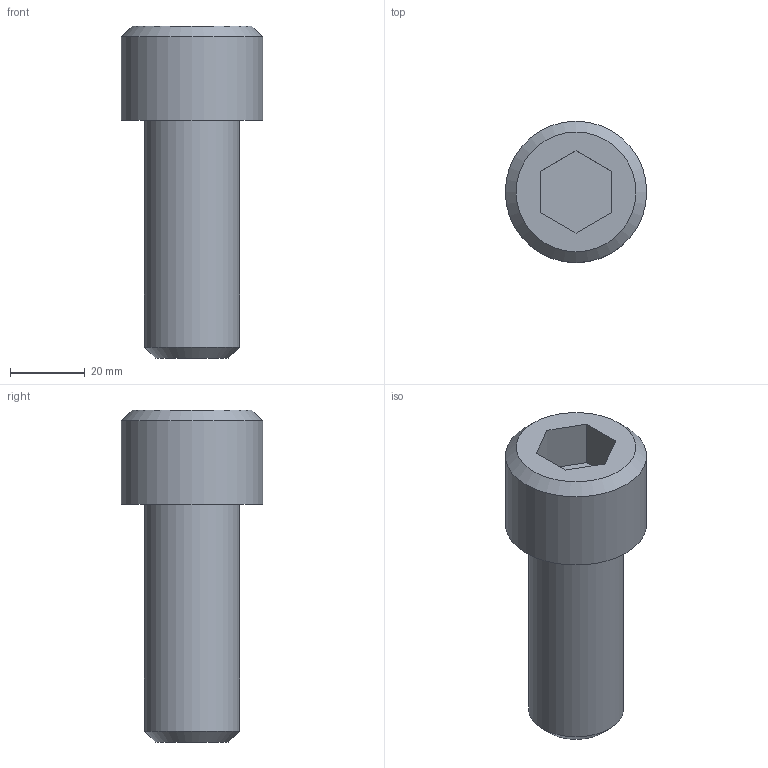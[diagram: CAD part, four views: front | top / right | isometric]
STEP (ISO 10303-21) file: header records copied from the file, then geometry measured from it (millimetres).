
FILE_DESCRIPTION((''),'2;1');
FILE_NAME('C:\Users\Stan\Desktop\import\SHCS 1-8 UNCx2.5.ipt.step','2011-08-18T17:44:12',(''),(''),'Autodesk Inventor 2012','Autodesk Inventor 2012','');
FILE_SCHEMA(('AUTOMOTIVE_DESIGN { 1 0 10303 214 1 1 1 1 }'));
Length unit declared in the file: inch
Products named in the file (1): SHCS 1-8 UNCx2.5
Bounding box: 37.8 x 37.8 x 88.75 mm (x, y, z)
Volume: 55768.9 mm3; surface area: 10779.9 mm2
Topology: 1 solids, 1 shells, 14 faces, 28 edges, 18 vertices
Faces by surface type: plane 10, cone 2, cylinder 2
Full cylindrical faces by diameter (mm): 25.4 x1, 37.795 x1
Entity records: 391 total; most frequent: DIRECTION 60, CARTESIAN_POINT 57, ORIENTED_EDGE 48, EDGE_CURVE 24, AXIS2_PLACEMENT_3D 21, EDGE_LOOP 20, VERTEX_POINT 18, VECTOR 18
